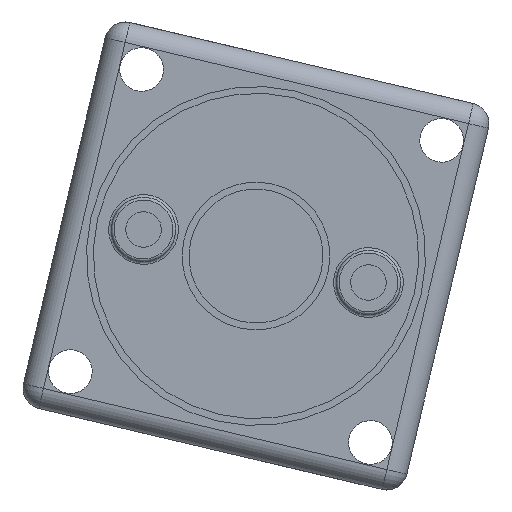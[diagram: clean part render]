
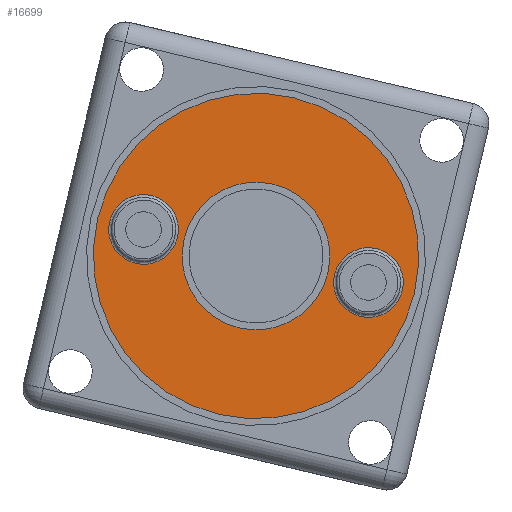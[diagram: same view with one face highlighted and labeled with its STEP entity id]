
A CAD part, front view. The second image highlights one B-rep face of the part: STEP entity #16699.
In plain terms, the highlighted planar face has unit normal (0, -1, 0).
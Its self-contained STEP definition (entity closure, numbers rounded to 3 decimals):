
#16646=CARTESIAN_POINT('',(-5.9,-22.5,14.5));
#16647=VERTEX_POINT('',#16646);
#16648=CARTESIAN_POINT('',(-8.45,-22.5,14.5));
#16649=DIRECTION('',(0.0,-1.0,0.0));
#16650=DIRECTION('',(-1.0,0.0,0.0));
#16651=AXIS2_PLACEMENT_3D('',#16648,#16649,#16650);
#16652=CIRCLE('',#16651,2.55);
#16653=EDGE_CURVE('',#16647,#16647,#16652,.T.);
#16658=CARTESIAN_POINT('',(0.0,-22.5,0.0));
#16659=DIRECTION('',(0.0,-1.0,0.0));
#16660=DIRECTION('',(0.0,0.0,-1.0));
#16661=AXIS2_PLACEMENT_3D('',#16658,#16659,#16660);
#16662=PLANE('',#16661);
#16663=CARTESIAN_POINT('',(11.9,-22.5,14.5));
#16664=VERTEX_POINT('',#16663);
#16665=CARTESIAN_POINT('',(0.,-22.5,14.5));
#16666=DIRECTION('',(0.0,-1.0,0.0));
#16667=DIRECTION('',(-1.0,0.0,0.0));
#16668=AXIS2_PLACEMENT_3D('',#16665,#16666,#16667);
#16669=CIRCLE('',#16668,11.9);
#16670=EDGE_CURVE('',#16664,#16664,#16669,.T.);
#16671=ORIENTED_EDGE('',*,*,#16670,.T.);
#16672=EDGE_LOOP('',(#16671));
#16673=FACE_OUTER_BOUND('',#16672,.T.);
#16674=CARTESIAN_POINT('',(11.,-22.5,14.5));
#16675=VERTEX_POINT('',#16674);
#16676=CARTESIAN_POINT('',(8.45,-22.5,14.5));
#16677=DIRECTION('',(0.0,-1.0,0.0));
#16678=DIRECTION('',(-1.0,0.0,0.0));
#16679=AXIS2_PLACEMENT_3D('',#16676,#16677,#16678);
#16680=CIRCLE('',#16679,2.55);
#16681=EDGE_CURVE('',#16675,#16675,#16680,.T.);
#16682=ORIENTED_EDGE('',*,*,#16681,.F.);
#16683=EDGE_LOOP('',(#16682));
#16684=FACE_BOUND('',#16683,.T.);
#16685=CARTESIAN_POINT('',(5.4,-22.5,14.5));
#16686=VERTEX_POINT('',#16685);
#16687=CARTESIAN_POINT('',(0.,-22.5,14.5));
#16688=DIRECTION('',(0.0,1.0,0.0));
#16689=DIRECTION('',(-1.0,0.0,0.0));
#16690=AXIS2_PLACEMENT_3D('',#16687,#16688,#16689);
#16691=CIRCLE('',#16690,5.4);
#16692=EDGE_CURVE('',#16686,#16686,#16691,.T.);
#16693=ORIENTED_EDGE('',*,*,#16692,.T.);
#16694=EDGE_LOOP('',(#16693));
#16695=FACE_BOUND('',#16694,.T.);
#16696=ORIENTED_EDGE('',*,*,#16653,.F.);
#16697=EDGE_LOOP('',(#16696));
#16698=FACE_BOUND('',#16697,.T.);
#16699=ADVANCED_FACE('',(#16673,#16684,#16695,#16698),#16662,.T.);
